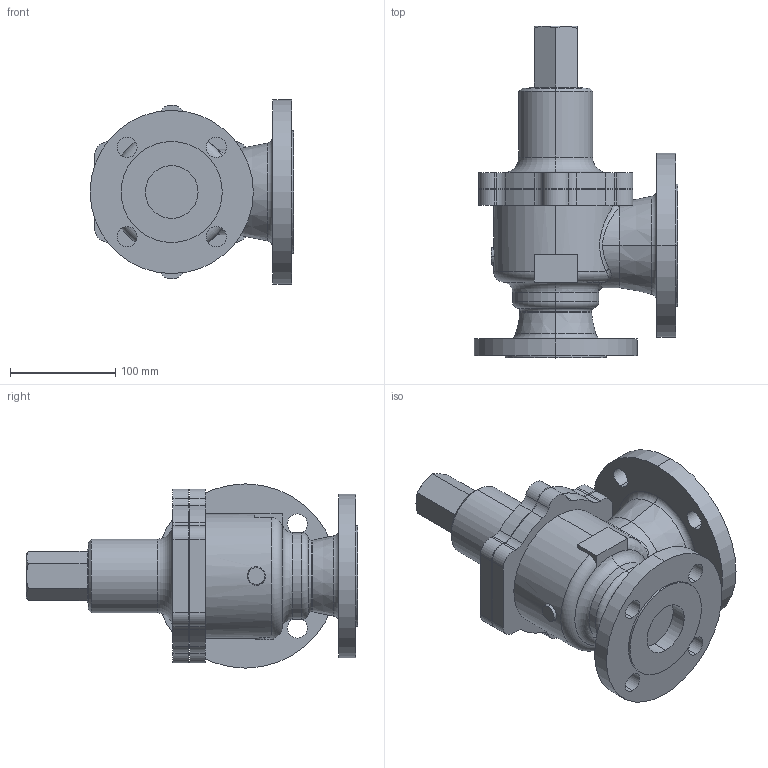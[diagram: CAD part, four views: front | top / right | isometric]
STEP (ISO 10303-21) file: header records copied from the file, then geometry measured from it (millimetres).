
FILE_DESCRIPTION (( 'STEP AP203' ), '1' );
FILE_NAME ('AL-31 50A.STEP', '2026-01-13T07:19:12', ( '' ), ( '' ), 'SwSTEP 2.0', 'SolidWorks 2024', '' );
FILE_SCHEMA (( 'CONFIG_CONTROL_DESIGN' ));
Length unit declared in the file: millimetre
Products named in the file (1): AL-31 50A
Bounding box: 193.5 x 315.3 x 175 mm (x, y, z)
Volume: 2888528.7 mm3; surface area: 228292.4 mm2
Topology: 1 solids, 1 shells, 154 faces, 392 edges, 252 vertices
Faces by surface type: cylinder 90, plane 33, torus 14, cone 12, bspline 5
Entity records: 6075 total; most frequent: CARTESIAN_POINT 2122, DIRECTION 878, ORIENTED_EDGE 784, EDGE_CURVE 392, AXIS2_PLACEMENT_3D 371, VERTEX_POINT 252, CIRCLE 221, EDGE_LOOP 182
